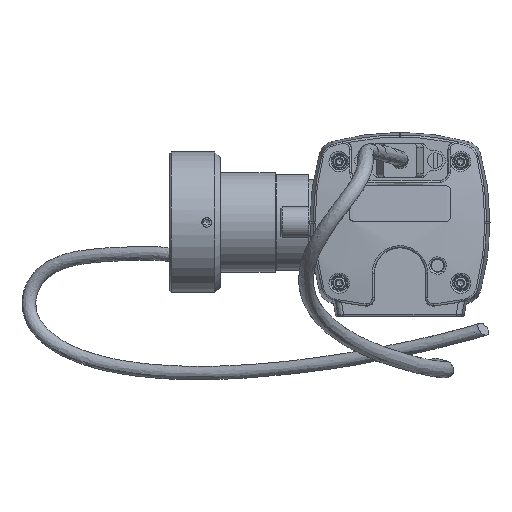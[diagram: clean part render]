
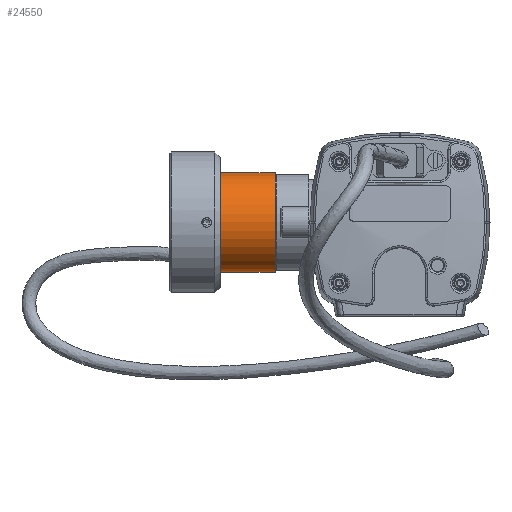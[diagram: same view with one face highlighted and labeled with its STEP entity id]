
A CAD part, left-side view. The second image highlights one B-rep face of the part: STEP entity #24550.
In plain terms, the highlighted cylindrical face has radius 12.7 mm (diameter 25.4 mm), a full revolution.
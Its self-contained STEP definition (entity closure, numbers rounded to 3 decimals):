
#1290=CYLINDRICAL_SURFACE('',#25965,12.7);
#2457=FACE_OUTER_BOUND('',#3832,.T.);
#3832=EDGE_LOOP('',(#15737,#15738,#15739,#15740,#15741,#15742));
#5362=CIRCLE('',#25962,12.7);
#5363=CIRCLE('',#25963,12.7);
#5365=CIRCLE('',#25966,12.7);
#5366=CIRCLE('',#25967,12.7);
#6469=LINE('',#34914,#8042);
#8042=VECTOR('',#28438,12.7);
#9619=VERTEX_POINT('',#34903);
#9620=VERTEX_POINT('',#34904);
#9622=VERTEX_POINT('',#34910);
#9623=VERTEX_POINT('',#34911);
#12055=EDGE_CURVE('',#9619,#9620,#5362,.T.);
#12056=EDGE_CURVE('',#9620,#9619,#5363,.T.);
#12058=EDGE_CURVE('',#9622,#9623,#5365,.T.);
#12059=EDGE_CURVE('',#9623,#9622,#5366,.T.);
#12060=EDGE_CURVE('',#9623,#9620,#6469,.T.);
#15737=ORIENTED_EDGE('',*,*,#12058,.F.);
#15738=ORIENTED_EDGE('',*,*,#12059,.F.);
#15739=ORIENTED_EDGE('',*,*,#12060,.T.);
#15740=ORIENTED_EDGE('',*,*,#12056,.T.);
#15741=ORIENTED_EDGE('',*,*,#12055,.T.);
#15742=ORIENTED_EDGE('',*,*,#12060,.F.);
#24550=ADVANCED_FACE('',(#2457),#1290,.T.);
#25962=AXIS2_PLACEMENT_3D('',#34905,#28426,#28427);
#25963=AXIS2_PLACEMENT_3D('',#34906,#28428,#28429);
#25965=AXIS2_PLACEMENT_3D('',#34909,#28432,#28433);
#25966=AXIS2_PLACEMENT_3D('',#34912,#28434,#28435);
#25967=AXIS2_PLACEMENT_3D('',#34913,#28436,#28437);
#28426=DIRECTION('center_axis',(0.,1.,0.));
#28427=DIRECTION('ref_axis',(-1.,0.,0.));
#28428=DIRECTION('center_axis',(0.,1.,0.));
#28429=DIRECTION('ref_axis',(-1.,0.,0.));
#28432=DIRECTION('center_axis',(0.,1.,0.));
#28433=DIRECTION('ref_axis',(-1.,0.,0.));
#28434=DIRECTION('center_axis',(0.,1.,0.));
#28435=DIRECTION('ref_axis',(-1.,0.,0.));
#28436=DIRECTION('center_axis',(0.,1.,0.));
#28437=DIRECTION('ref_axis',(-1.,0.,0.));
#28438=DIRECTION('',(0.,-1.,0.));
#34903=CARTESIAN_POINT('',(40.3,13.196,0.));
#34904=CARTESIAN_POINT('',(65.7,13.196,0.));
#34905=CARTESIAN_POINT('Origin',(53.,13.196,0.));
#34906=CARTESIAN_POINT('Origin',(53.,13.196,0.));
#34909=CARTESIAN_POINT('Origin',(53.,26.846,0.));
#34910=CARTESIAN_POINT('',(40.3,27.196,0.));
#34911=CARTESIAN_POINT('',(65.7,27.196,0.));
#34912=CARTESIAN_POINT('Origin',(53.,27.196,0.));
#34913=CARTESIAN_POINT('Origin',(53.,27.196,0.));
#34914=CARTESIAN_POINT('',(65.7,26.846,0.));
